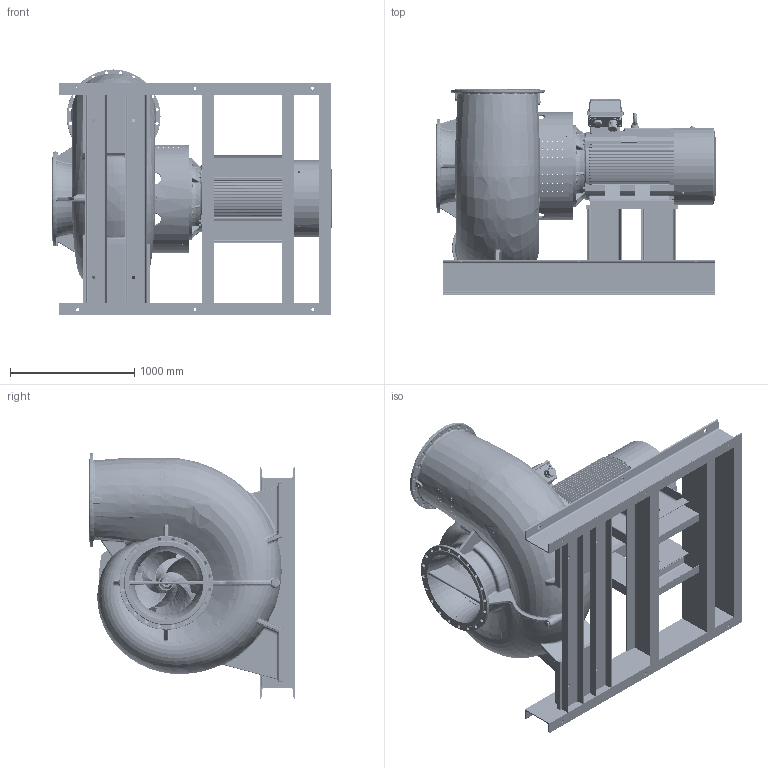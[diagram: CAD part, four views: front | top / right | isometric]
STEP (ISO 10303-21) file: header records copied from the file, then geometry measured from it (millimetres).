
FILE_DESCRIPTION((''),'2;1');
FILE_NAME('NSLH600-630_A02_FO_ASM','2024-05-28T',('maxz'),(''),'PRO/ENGINEER BY PARAMETRIC TECHNOLOGY CORPORATION, 2017170','PRO/ENGINEER BY PARAMETRIC TECHNOLOGY CORPORATION, 2017170','');
FILE_SCHEMA(('CONFIG_CONTROL_DESIGN'));
Products named in the file (43): 596410; 596520; 596570; 596540; 111169; 529370; 716825; 704057; 717923; 117303; 114554; 711066; 506843; 114038; 711064; 703371; 711065; 703376; 704033; 704190; 506955; 712061; 725988_1; 725988_2; 725988_ASM; 700324; 704391; 704390; 712334; 711318; 710729; 696008_ASM; 596560; 117435_AF0; 117435_AF1; 720488; 111755; 700416; 702247; 696010_ASM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
Assembly tree (102 placements, depth 4):
  NSLH600-630_A02_FO_ASM
    696008_ASM
      596410
      596520
      596570
      596540
      111169
      529370
      716825
      704057
      717923
      117303
      114554
      711066  x2
      506843
      114038
      711064  x2
      703371
      711065
      703376  x20
      704033  x16
      704190
      506955
      712061
      725988_ASM
        725988_1
        725988_2
      700324  x8
      704391
      704390  x4
      712334
      711318
      710729
    696010_ASM
      596560
      117435_AF0
      117435_AF1
      720488  x8
      111755
      700416
      702247  x8
    107374
    852642
Bounding box: 2251 x 1655 x 1970.5 mm (x, y, z)
Volume: 562838246.6 mm3; surface area: 49536864 mm2
Topology: 139 solids, 212 shells, 8778 faces, 22305 edges, 14032 vertices
Faces by surface type: plane 2922, cylinder 2115, cone 1284, bspline 1155, extrusion 678, torus 509, sphere 111, revolution 4
Entity records: 508226 total; most frequent: CARTESIAN_POINT 327922, ORIENTED_EDGE 39728, DIRECTION 33053, EDGE_CURVE 19996, VERTEX_POINT 12752, AXIS2_PLACEMENT_3D 12533, EDGE_LOOP 8820, VECTOR 7983
